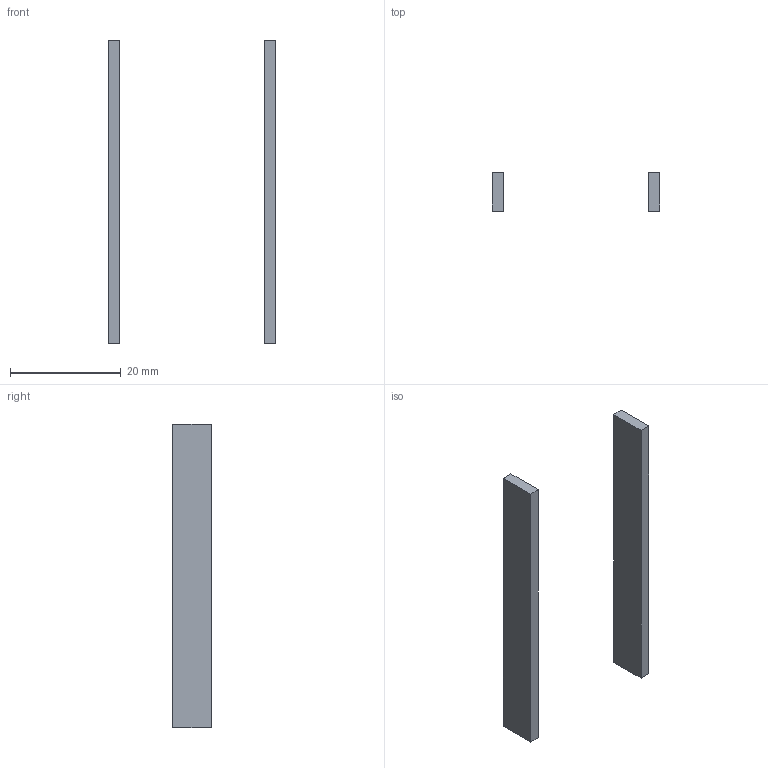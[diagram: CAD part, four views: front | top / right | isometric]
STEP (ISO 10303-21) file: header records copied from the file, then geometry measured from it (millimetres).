
FILE_DESCRIPTION(('FreeCAD Model'),'2;1');
FILE_NAME('Open CASCADE Shape Model','2026-10-31T13:49:49',('FreeCAD'),( 'FreeCAD'),'Open CASCADE STEP processor 7.8','FreeCAD','Unknown');
FILE_SCHEMA(('AUTOMOTIVE_DESIGN { 1 0 10303 214 1 1 1 1 }'));
Length unit declared in the file: millimetre
Products named in the file (1): Open CASCADE STEP translator 7.8 25
Bounding box: 30.2 x 7 x 54.74 mm (x, y, z)
Volume: 1532.7 mm3; surface area: 2026.6 mm2
Topology: 2 solids, 2 shells, 12 faces, 24 edges, 16 vertices
Faces by surface type: plane 12
Entity records: 316 total; most frequent: CARTESIAN_POINT 53, DIRECTION 50, ORIENTED_EDGE 48, EDGE_CURVE 24, LINE 24, VECTOR 24, VERTEX_POINT 16, AXIS2_PLACEMENT_3D 13
